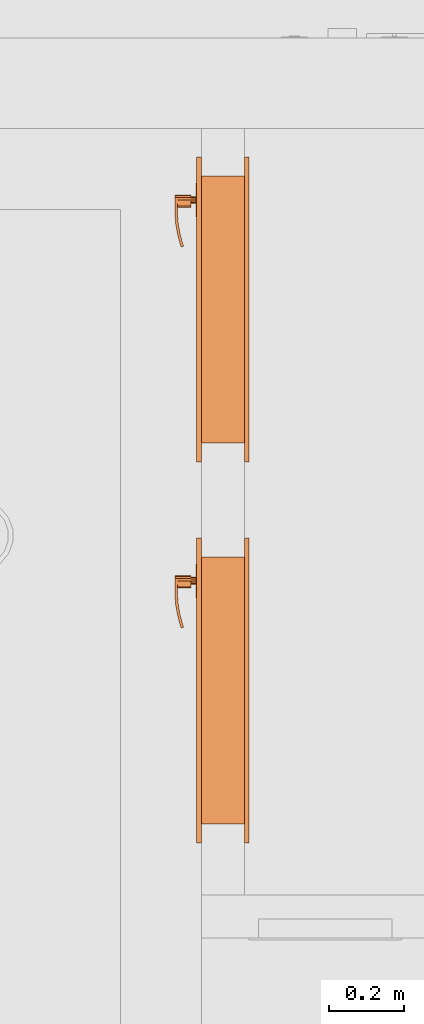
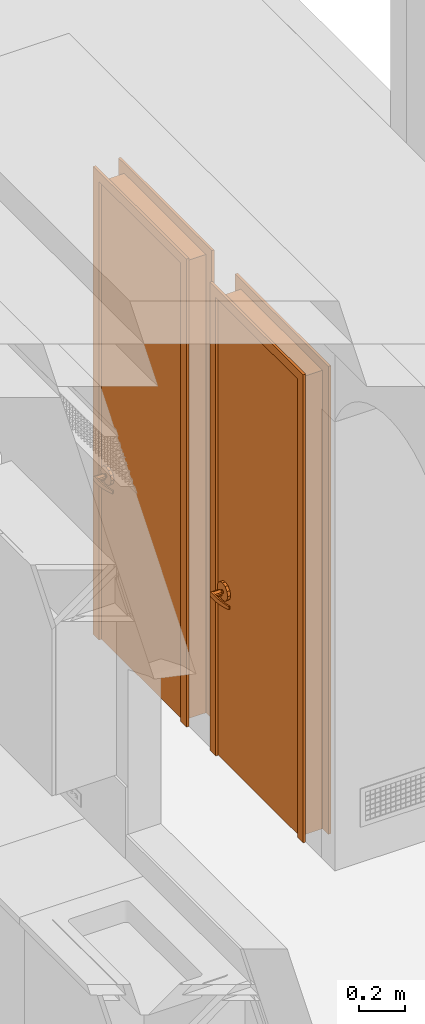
# One storey, part 65 of 103: 2 proxies.
"""IFC2X3 building model written with IfcOpenShell, lengths in inches."""

from ifc_helpers import new_model, entity, si_unit, converted_unit, derived_unit, money_unit, direction, frame, origin_with_axes, place, context, subcontext, project, spatial, open_shell, faceted_brep, surface_model, source, transform, mapped, type_object, element, save


model = new_model("IFC2X3")

# Units and contexts
model_context = context("Model", 3, precision=0.00039370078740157, world=origin_with_axes(), true_north=direction((0.0, 1.0)))
plan_context = context("Plan", 3, precision=0.00039370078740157, world=origin_with_axes(), true_north=direction((0.0, 1.0)))
body_context = subcontext(model_context, "Body", "Model", "MODEL_VIEW")
ifc_project = project(units=[converted_unit("LENGTHUNIT", "INCH", entity("IfcPositiveLengthMeasure", 0.0254), si_unit("LENGTHUNIT", "METRE"), dimensions=[1, 0, 0, 0, 0, 0, 0]), converted_unit("AREAUNIT", "SQUARE_FOOT", entity("IfcPositiveLengthMeasure", 0.09290304), si_unit("AREAUNIT", "SQUARE_METRE"), dimensions=[2, 0, 0, 0, 0, 0, 0]), si_unit("PLANEANGLEUNIT", "RADIAN"), si_unit("SOLIDANGLEUNIT", "STERADIAN"), money_unit("USD"), converted_unit("TIMEUNIT", "Year", entity("IfcTimeMeasure", 31557600.0), si_unit("TIMEUNIT", "SECOND"), dimensions=[0, 0, 1, 0, 0, 0, 0]), si_unit("MASSUNIT", "GRAM", prefix="KILO"), si_unit("THERMODYNAMICTEMPERATUREUNIT", "DEGREE_CELSIUS"), si_unit("LUMINOUSINTENSITYUNIT", "LUMEN"), si_unit("ENERGYUNIT", "JOULE", prefix="MEGA"), derived_unit("SPECIFICHEATCAPACITYUNIT", [(si_unit("ENERGYUNIT", "JOULE"), 1), (si_unit("MASSUNIT", "GRAM", prefix="KILO"), -1), (si_unit("THERMODYNAMICTEMPERATUREUNIT", "KELVIN"), -1)])], contexts=[model_context, plan_context])

# Site, building, storey
site_placement = place(None, origin_with_axes())
site = spatial("IfcSite", under=ifc_project, at=site_placement, Name="Site", CompositionType="ELEMENT")
building_placement = place(site_placement, origin_with_axes())
building = spatial("IfcBuilding", under=site, at=building_placement, Name="Building", CompositionType="ELEMENT")
storey_placement = place(building_placement, frame((0.0, 0.0, 127.9999999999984), z_axis=(0.0, 0.0, 1.0), x_axis=(1.0, 0.0, 0.0)))
storey = spatial("IfcBuildingStorey", under=building, at=storey_placement, Name="Second Floor", CompositionType="ELEMENT", Elevation=128.0)

# Proxies
building_element_proxy_type = type_object("IfcBuildingElementProxyType", Name="D1", PredefinedType="NOTDEFINED")
shared_shape = source(origin_with_axes(), body_context, "Body", "SurfaceModel", [
    faceted_brep([(15.9999999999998, -4.999999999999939, 0.0), (13.99999999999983, -4.999999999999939, 0.0), (13.99999999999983, -4.499999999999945, 0.0), (15.9999999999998, -4.499999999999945, 0.0), (15.9999999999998, -4.999999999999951, 97.99999999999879), (13.99999999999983, -4.999999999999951, 95.9999999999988), (13.99999999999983, -4.499999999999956, 95.9999999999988), (15.9999999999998, -4.499999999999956, 97.99999999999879)], [[[0, 1, 2, 3]], [[0, 4, 5, 1]], [[1, 5, 6, 2]], [[3, 2, 6, 7]], [[4, 0, 3, 7]], [[5, 4, 7, 6]]]),
    faceted_brep([(-15.9999999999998, -4.999999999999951, 97.99999999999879), (-13.99999999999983, -4.999999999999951, 95.9999999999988), (-13.99999999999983, -4.499999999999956, 95.9999999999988), (-15.9999999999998, -4.499999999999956, 97.99999999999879), (-15.9999999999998, -4.999999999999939, 0.0), (-13.99999999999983, -4.999999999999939, 0.0), (-13.99999999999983, -4.499999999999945, 0.0), (-15.9999999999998, -4.499999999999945, 0.0)], [[[0, 1, 2, 3]], [[0, 4, 5, 1]], [[1, 5, 6, 2]], [[3, 2, 6, 7]], [[4, 0, 3, 7]], [[5, 4, 7, 6]]]),
    faceted_brep([(15.9999999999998, -4.999999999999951, 97.99999999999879), (13.99999999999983, -4.999999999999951, 95.9999999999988), (13.99999999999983, -4.499999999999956, 95.9999999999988), (15.9999999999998, -4.499999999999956, 97.99999999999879), (-15.9999999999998, -4.999999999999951, 97.99999999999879), (-13.99999999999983, -4.999999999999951, 95.9999999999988), (-13.99999999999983, -4.499999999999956, 95.9999999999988), (-15.9999999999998, -4.499999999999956, 97.99999999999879)], [[[0, 1, 2, 3]], [[0, 4, 5, 1]], [[1, 5, 6, 2]], [[3, 2, 6, 7]], [[4, 0, 3, 7]], [[5, 4, 7, 6]]]),
    faceted_brep([(15.9999999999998, 0.4999999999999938, 0.0), (15.9999999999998, 0.0, 0.0), (13.99999999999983, 0.0, 0.0), (13.99999999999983, 0.4999999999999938, 0.0), (15.9999999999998, 0.4999999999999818, 97.99999999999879), (15.9999999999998, 0.0, 97.99999999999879), (13.99999999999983, 0.0, 95.9999999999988), (13.99999999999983, 0.4999999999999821, 95.9999999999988)], [[[0, 1, 2, 3]], [[4, 5, 1, 0]], [[1, 5, 6, 2]], [[3, 2, 6, 7]], [[0, 3, 7, 4]], [[7, 6, 5, 4]]]),
    faceted_brep([(-15.9999999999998, 0.4999999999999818, 97.99999999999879), (-15.9999999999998, 0.0, 97.99999999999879), (-13.99999999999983, 0.0, 95.9999999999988), (-13.99999999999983, 0.4999999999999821, 95.9999999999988), (-15.9999999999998, 0.4999999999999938, 0.0), (-15.9999999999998, 0.0, 0.0), (-13.99999999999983, 0.0, 0.0), (-13.99999999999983, 0.4999999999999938, 0.0)], [[[0, 1, 2, 3]], [[4, 5, 1, 0]], [[1, 5, 6, 2]], [[3, 2, 6, 7]], [[0, 3, 7, 4]], [[7, 6, 5, 4]]]),
    faceted_brep([(15.9999999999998, 0.4999999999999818, 97.99999999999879), (15.9999999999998, 0.0, 97.99999999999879), (13.99999999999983, 0.0, 95.9999999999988), (13.99999999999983, 0.4999999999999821, 95.9999999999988), (-15.9999999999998, 0.4999999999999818, 97.99999999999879), (-15.9999999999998, 0.0, 97.99999999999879), (-13.99999999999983, 0.0, 95.9999999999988), (-13.99999999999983, 0.4999999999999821, 95.9999999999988)], [[[0, 1, 2, 3]], [[4, 5, 1, 0]], [[1, 5, 6, 2]], [[3, 2, 6, 7]], [[0, 3, 7, 4]], [[7, 6, 5, 4]]]),
    faceted_brep([(13.99999999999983, 0.0, 0.0), (13.99999999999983, -4.499999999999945, 0.0), (13.49999999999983, -4.499999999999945, 0.0), (13.49999999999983, 0.0, 0.0), (13.99999999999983, 0.0, 95.4999999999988), (13.99999999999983, -4.499999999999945, 95.4999999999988), (13.49999999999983, -4.499999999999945, 95.4999999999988), (13.49999999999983, 0.0, 95.4999999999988)], [[[0, 1, 2, 3]], [[4, 5, 1, 0]], [[1, 5, 6, 2]], [[3, 2, 6, 7]], [[0, 3, 7, 4]], [[7, 6, 5, 4]]]),
    faceted_brep([(-13.99999999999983, 0.0, 0.0), (-13.99999999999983, -4.499999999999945, 0.0), (-13.99999999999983, -4.499999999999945, 95.4999999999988), (-13.99999999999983, 0.0, 95.4999999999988), (-13.49999999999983, 0.0, 0.0), (-13.49999999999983, -4.499999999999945, 0.0), (-13.49999999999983, -4.499999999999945, 95.4999999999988), (-13.49999999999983, 0.0, 95.4999999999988)], [[[0, 1, 2, 3]], [[4, 5, 1, 0]], [[1, 5, 6, 2]], [[3, 2, 6, 7]], [[0, 3, 7, 4]], [[7, 6, 5, 4]]]),
    faceted_brep([(13.99999999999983, 0.0, 95.9999999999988), (13.99999999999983, -4.499999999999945, 95.9999999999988), (13.99999999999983, -4.499999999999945, 95.4999999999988), (13.99999999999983, 0.0, 95.4999999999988), (-13.99999999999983, 0.0, 95.9999999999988), (-13.99999999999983, -4.499999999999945, 95.9999999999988), (-13.99999999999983, -4.499999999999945, 95.4999999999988), (-13.49999999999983, -4.499999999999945, 95.4999999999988), (13.49999999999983, -4.499999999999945, 95.4999999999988), (13.49999999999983, 0.0, 95.4999999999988), (-13.49999999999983, 0.0, 95.4999999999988), (-13.99999999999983, 0.0, 95.4999999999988)], [[[0, 1, 2, 3]], [[4, 5, 1, 0]], [[1, 5, 6, 7, 8, 2]], [[3, 2, 8, 9]], [[0, 3, 9, 10, 11, 4]], [[11, 6, 5, 4]], [[10, 7, 6, 11]], [[9, 8, 7, 10]]]),
    surface_model("IfcShellBasedSurfaceModel", [(9.94865528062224, -2.340551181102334, 36.89566929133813), (9.94865528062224, -2.336614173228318, 36.89566929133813), (9.708661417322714, -2.336614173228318, 35.99999999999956), (9.708661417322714, -2.340551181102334, 35.99999999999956), (10.60433070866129, -2.340551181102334, 37.55134471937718), (10.60433070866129, -2.336614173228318, 37.55134471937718), (9.94865528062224, -1.753937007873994, 36.89566929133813), (9.708661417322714, -1.753937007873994, 35.99999999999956), (9.948655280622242, -2.336614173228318, 35.10433070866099), (9.948655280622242, -2.340551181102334, 35.10433070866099), (10.60433070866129, -2.340551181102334, 34.44865528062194), (11.49999999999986, -2.340551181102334, 34.20866141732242), (12.39566929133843, -2.340551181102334, 34.44865528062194), (13.05134471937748, -2.340551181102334, 35.10433070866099), (13.291338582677, -2.340551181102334, 35.99999999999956), (13.05134471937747, -2.340551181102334, 36.89566929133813), (12.39566929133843, -2.340551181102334, 37.55134471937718), (11.49999999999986, -2.340551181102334, 37.7913385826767), (11.49999999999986, -2.336614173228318, 37.7913385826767), (10.60433070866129, -1.753937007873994, 37.55134471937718), (9.94865528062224, -1.749999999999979, 36.89566929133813), (9.708661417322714, -1.749999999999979, 35.99999999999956), (9.948655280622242, -1.753937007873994, 35.10433070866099), (10.60433070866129, -2.336614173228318, 34.44865528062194), (11.49999999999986, -2.336614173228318, 34.20866141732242), (12.39566929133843, -2.336614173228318, 34.44865528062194), (13.05134471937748, -2.336614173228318, 35.10433070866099), (13.291338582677, -2.336614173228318, 35.99999999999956), (13.05134471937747, -2.336614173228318, 36.89566929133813), (12.39566929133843, -2.336614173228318, 37.55134471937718), (11.49999999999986, -1.753937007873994, 37.7913385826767), (10.60433070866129, -1.749999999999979, 37.55134471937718), (9.948655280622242, -1.749999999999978, 35.10433070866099), (10.60433070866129, -1.753937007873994, 34.44865528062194), (11.49999999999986, -1.753937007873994, 34.20866141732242), (12.39566929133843, -1.753937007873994, 34.44865528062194), (13.05134471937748, -1.753937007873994, 35.10433070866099), (13.291338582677, -1.753937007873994, 35.99999999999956), (13.05134471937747, -1.753937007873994, 36.89566929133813), (12.39566929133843, -1.753937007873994, 37.55134471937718), (11.49999999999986, -1.749999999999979, 37.7913385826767), (10.60433070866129, -1.749999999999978, 34.44865528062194), (11.49999999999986, -1.749999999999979, 34.20866141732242), (12.39566929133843, -1.749999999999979, 34.44865528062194), (13.05134471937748, -1.749999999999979, 35.10433070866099), (13.291338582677, -1.749999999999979, 35.99999999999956), (13.05134471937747, -1.749999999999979, 36.89566929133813), (12.39566929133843, -1.749999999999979, 37.55134471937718)], [open_shell([[[0, 1, 2, 3]], [[4, 5, 1, 0]], [[1, 6, 7, 2]], [[3, 2, 8, 9]], [[3, 9, 10, 11, 12, 13, 14, 15, 16, 17, 4, 0]], [[17, 18, 5, 4]], [[5, 19, 6, 1]], [[6, 20, 21, 7]], [[2, 7, 22, 8]], [[9, 8, 23, 10]], [[10, 23, 24, 11]], [[11, 24, 25, 12]], [[12, 25, 26, 13]], [[13, 26, 27, 14]], [[14, 27, 28, 15]], [[15, 28, 29, 16]], [[16, 29, 18, 17]], [[18, 30, 19, 5]], [[19, 31, 20, 6]], [[7, 21, 32, 22]], [[8, 22, 33, 23]], [[23, 33, 34, 24]], [[24, 34, 35, 25]], [[25, 35, 36, 26]], [[26, 36, 37, 27]], [[27, 37, 38, 28]], [[28, 38, 39, 29]], [[29, 39, 30, 18]], [[30, 40, 31, 19]], [[22, 32, 41, 33]], [[33, 41, 42, 34]], [[34, 42, 43, 35]], [[35, 43, 44, 36]], [[36, 44, 45, 37]], [[37, 45, 46, 38]], [[38, 46, 47, 39]], [[39, 47, 40, 30]]])]),
    faceted_brep([(11.69685039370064, -2.340551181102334, 35.65904511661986), (11.49999999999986, -2.340551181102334, 35.60629921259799), (11.30314960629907, -2.340551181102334, 35.65904511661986), (11.15904511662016, -2.340551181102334, 35.80314960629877), (11.10629921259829, -2.340551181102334, 35.99999999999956), (11.15904511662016, -2.340551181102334, 36.19685039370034), (11.30314960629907, -2.340551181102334, 36.34095488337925), (11.49999999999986, -2.340551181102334, 36.39370078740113), (11.69685039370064, -2.340551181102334, 36.34095488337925), (11.84095488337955, -2.340551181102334, 36.19685039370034), (11.89370078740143, -2.340551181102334, 35.99999999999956), (11.84095488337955, -2.340551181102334, 35.80314960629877), (11.69685039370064, -2.852362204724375, 35.65904511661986), (11.49999999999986, -2.852362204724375, 35.60629921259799), (11.30314960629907, -2.852362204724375, 35.65904511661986), (11.15904511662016, -2.852362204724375, 35.80314960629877), (11.10629921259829, -2.852362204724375, 35.99999999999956), (11.15904511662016, -2.852362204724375, 36.19685039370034), (11.30314960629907, -2.852362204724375, 36.34095488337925), (11.49999999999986, -2.852362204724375, 36.39370078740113), (11.69685039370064, -2.852362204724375, 36.34095488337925), (11.84095488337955, -2.852362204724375, 36.19685039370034), (11.89370078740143, -2.852362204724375, 35.99999999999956), (11.84095488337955, -2.852362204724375, 35.80314960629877)], [[[0, 1, 2, 3, 4, 5, 6, 7, 8, 9, 10, 11]], [[0, 12, 13, 1]], [[1, 13, 14, 2]], [[2, 14, 15, 3]], [[3, 15, 16, 4]], [[4, 16, 17, 5]], [[5, 17, 18, 6]], [[6, 18, 19, 7]], [[7, 19, 20, 8]], [[8, 20, 21, 9]], [[9, 21, 22, 10]], [[10, 22, 23, 11]], [[11, 23, 12, 0]], [[12, 23, 22, 21, 20, 19, 18, 17, 16, 15, 14, 13]]]),
    faceted_brep([(11.49999999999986, -2.852362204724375, 36.55118110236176), (11.49999999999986, -4.269685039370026, 36.55118110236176), (11.77559055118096, -4.269685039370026, 36.47733683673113), (11.77559055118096, -2.852362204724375, 36.47733683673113), (11.10629921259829, -2.852362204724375, 36.47244094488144), (11.10629921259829, -4.269685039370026, 36.47244094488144), (10.87352117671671, -4.269685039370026, 36.35358914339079), (10.73705189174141, -4.269685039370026, 36.13068221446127), (10.73705189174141, -4.269685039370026, 35.86931778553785), (10.87352117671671, -4.269685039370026, 35.64641085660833), (11.10629921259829, -4.269685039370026, 35.52755905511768), (11.49999999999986, -4.269685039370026, 35.44881889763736), (11.77559055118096, -4.269685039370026, 35.52266316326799), (11.97733683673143, -4.269685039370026, 35.72440944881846), (12.05118110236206, -4.269685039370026, 35.99999999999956), (11.97733683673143, -4.269685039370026, 36.27559055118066), (11.97733683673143, -2.852362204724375, 36.27559055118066), (12.05118110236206, -2.852362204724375, 35.99999999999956), (11.97733683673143, -2.852362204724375, 35.72440944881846), (11.77559055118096, -2.852362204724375, 35.52266316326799), (11.49999999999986, -2.852362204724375, 35.44881889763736), (11.10629921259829, -2.852362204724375, 35.52755905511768), (10.87352117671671, -2.852362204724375, 35.64641085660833), (10.73705189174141, -2.852362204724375, 35.86931778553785), (10.73705189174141, -2.852362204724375, 36.13068221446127), (10.87352117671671, -2.852362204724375, 36.35358914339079)], [[[0, 1, 2, 3]], [[4, 5, 1, 0]], [[1, 5, 6, 7, 8, 9, 10, 11, 12, 13, 14, 15, 2]], [[3, 2, 15, 16]], [[0, 3, 16, 17, 18, 19, 20, 21, 22, 23, 24, 25, 4]], [[25, 6, 5, 4]], [[24, 7, 6, 25]], [[23, 8, 7, 24]], [[22, 9, 8, 23]], [[21, 10, 9, 22]], [[20, 11, 10, 21]], [[19, 12, 11, 20]], [[18, 13, 12, 19]], [[17, 14, 13, 18]], [[16, 15, 14, 17]]]),
    surface_model("IfcShellBasedSurfaceModel", [(11.49999999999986, -4.269685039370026, 36.55118110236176), (11.49999999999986, -4.545275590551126, 36.55118110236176), (11.77559055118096, -4.545275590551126, 36.47733683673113), (11.77559055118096, -4.269685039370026, 36.47733683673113), (10.51574803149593, -4.269685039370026, 36.55118110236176), (10.51574803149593, -4.545275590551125, 36.55118110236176), (10.51574803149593, -4.545275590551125, 35.44881889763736), (11.49999999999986, -4.545275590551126, 35.44881889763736), (11.77559055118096, -4.545275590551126, 35.52266316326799), (11.97733683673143, -4.545275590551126, 35.72440944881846), (12.05118110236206, -4.545275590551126, 35.99999999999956), (11.97733683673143, -4.545275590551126, 36.27559055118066), (11.97733683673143, -4.269685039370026, 36.27559055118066), (12.05118110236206, -4.269685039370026, 35.99999999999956), (11.97733683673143, -4.269685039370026, 35.72440944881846), (11.77559055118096, -4.269685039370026, 35.52266316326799), (11.49999999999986, -4.269685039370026, 35.44881889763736), (10.51574803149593, -4.269685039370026, 35.44881889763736)], [open_shell([[[0, 1, 2, 3]], [[4, 5, 1, 0]], [[1, 5, 6, 7, 8, 9, 10, 11, 2]], [[3, 2, 11, 12]], [[0, 3, 12, 13, 14, 15, 16, 17, 4]], [[16, 7, 6, 17]], [[15, 8, 7, 16]], [[14, 9, 8, 15]], [[13, 10, 9, 14]], [[12, 11, 10, 13]]])]),
    surface_model("IfcShellBasedSurfaceModel", [(10.51574803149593, -4.269685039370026, 35.44881889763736), (9.988035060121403, -4.545275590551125, 35.47974008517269), (10.00006760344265, -4.269685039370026, 35.47974008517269), (10.51574803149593, -4.545275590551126, 35.44881889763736), (8.93662533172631, -4.453289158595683, 35.54158246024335), (10.00006760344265, -4.269685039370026, 36.52025991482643), (10.51574803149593, -4.269685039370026, 36.55118110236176), (10.51574803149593, -4.545275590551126, 36.55118110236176), (9.988035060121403, -4.545275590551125, 36.52025991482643), (8.93662533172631, -4.453289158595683, 36.45841753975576), (8.972631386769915, -4.179796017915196, 35.54158246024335), (8.972631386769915, -4.179796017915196, 36.45841753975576), (7.897233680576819, -4.270016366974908, 36.3965751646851), (7.897233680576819, -4.270016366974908, 35.60342483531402), (7.956939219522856, -4.000702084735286, 35.60342483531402), (7.956939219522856, -4.000702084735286, 36.3965751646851), (6.877770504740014, -3.996852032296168, 36.33473278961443), (6.877770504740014, -3.996852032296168, 35.66526721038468), (6.960721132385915, -3.733766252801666, 35.66526721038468), (6.960721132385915, -3.733766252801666, 36.33473278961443), (6.560582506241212, -3.881405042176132, 36.31496062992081), (6.560582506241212, -3.881405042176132, 35.6850393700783), (6.650765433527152, -3.620951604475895, 35.6850393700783), (6.650765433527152, -3.620951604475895, 36.31496062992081)], [open_shell([[[0, 1, 2]], [[0, 3, 1]], [[2, 1, 4]], [[0, 2, 5, 6]], [[3, 7, 8, 1]], [[1, 8, 9, 4]], [[2, 4, 10]], [[2, 10, 11, 5]], [[5, 7, 6]], [[5, 8, 7]], [[11, 9, 8]], [[4, 9, 12, 13]], [[10, 4, 13]], [[10, 14, 15, 11]], [[11, 8, 5]], [[15, 9, 11]], [[15, 12, 9]], [[13, 12, 16, 17]], [[10, 13, 14]], [[14, 18, 19, 15]], [[19, 12, 15]], [[19, 16, 12]], [[17, 16, 20, 21]], [[14, 13, 17]], [[14, 17, 18]], [[18, 22, 23, 19]], [[23, 16, 19]], [[23, 20, 16]], [[22, 21, 20, 23]], [[18, 17, 21]], [[18, 21, 22]]])]),
    surface_model("IfcShellBasedSurfaceModel", [(9.948655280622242, 0.5905511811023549, 36.89566929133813), (9.708661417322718, 0.5905511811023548, 35.99999999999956), (9.708661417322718, 0.5866141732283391, 35.99999999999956), (9.948655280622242, 0.5866141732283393, 36.89566929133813), (10.60433070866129, 0.5905511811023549, 37.55134471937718), (11.49999999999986, 0.590551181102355, 37.7913385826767), (12.39566929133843, 0.590551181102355, 37.55134471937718), (13.05134471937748, 0.590551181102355, 36.89566929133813), (13.291338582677, 0.590551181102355, 35.99999999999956), (13.05134471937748, 0.5905511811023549, 35.10433070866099), (12.39566929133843, 0.5905511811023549, 34.44865528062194), (11.49999999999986, 0.5905511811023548, 34.20866141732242), (10.60433070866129, 0.5905511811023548, 34.44865528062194), (9.948655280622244, 0.5905511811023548, 35.10433070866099), (9.948655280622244, 0.5866141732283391, 35.10433070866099), (9.708661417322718, 0.00393700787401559, 35.99999999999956), (9.948655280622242, 0.00393700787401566, 36.89566929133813), (10.60433070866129, 0.5866141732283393, 37.55134471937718), (11.49999999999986, 0.5866141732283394, 37.7913385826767), (12.39566929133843, 0.5866141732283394, 37.55134471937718), (13.05134471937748, 0.5866141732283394, 36.89566929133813), (13.291338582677, 0.5866141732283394, 35.99999999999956), (13.05134471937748, 0.5866141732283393, 35.10433070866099), (12.39566929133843, 0.5866141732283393, 34.44865528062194), (11.49999999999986, 0.5866141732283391, 34.20866141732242), (10.60433070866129, 0.5866141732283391, 34.44865528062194), (9.948655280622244, 0.00393700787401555, 35.10433070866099), (9.708661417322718, 0.0, 35.99999999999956), (9.948655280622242, 0.0, 36.89566929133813), (10.60433070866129, 0.00393700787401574, 37.55134471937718), (11.49999999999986, 0.00393700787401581, 37.7913385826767), (12.39566929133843, 0.00393700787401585, 37.55134471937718), (13.05134471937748, 0.00393700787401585, 36.89566929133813), (13.291338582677, 0.00393700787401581, 35.99999999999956), (13.05134471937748, 0.00393700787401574, 35.10433070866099), (12.39566929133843, 0.00393700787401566, 34.44865528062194), (11.49999999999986, 0.00393700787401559, 34.20866141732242), (10.60433070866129, 0.00393700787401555, 34.44865528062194), (9.948655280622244, 0.0, 35.10433070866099), (10.60433070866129, 0.0, 37.55134471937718), (11.49999999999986, 0.0, 37.7913385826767), (12.39566929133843, 0.0, 37.55134471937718), (13.05134471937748, 0.0, 36.89566929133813), (13.291338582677, 0.0, 35.99999999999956), (13.05134471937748, 0.0, 35.10433070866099), (12.39566929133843, 0.0, 34.44865528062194), (11.49999999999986, 0.0, 34.20866141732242), (10.60433070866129, 0.0, 34.44865528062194)], [open_shell([[[0, 1, 2, 3]], [[1, 0, 4, 5, 6, 7, 8, 9, 10, 11, 12, 13]], [[1, 13, 14, 2]], [[3, 2, 15, 16]], [[4, 0, 3, 17]], [[5, 4, 17, 18]], [[6, 5, 18, 19]], [[7, 6, 19, 20]], [[8, 7, 20, 21]], [[9, 8, 21, 22]], [[10, 9, 22, 23]], [[11, 10, 23, 24]], [[12, 11, 24, 25]], [[13, 12, 25, 14]], [[2, 14, 26, 15]], [[16, 15, 27, 28]], [[17, 3, 16, 29]], [[18, 17, 29, 30]], [[19, 18, 30, 31]], [[20, 19, 31, 32]], [[21, 20, 32, 33]], [[22, 21, 33, 34]], [[23, 22, 34, 35]], [[24, 23, 35, 36]], [[25, 24, 36, 37]], [[14, 25, 37, 26]], [[15, 26, 38, 27]], [[29, 16, 28, 39]], [[30, 29, 39, 40]], [[31, 30, 40, 41]], [[32, 31, 41, 42]], [[33, 32, 42, 43]], [[34, 33, 43, 44]], [[35, 34, 44, 45]], [[36, 35, 45, 46]], [[37, 36, 46, 47]], [[26, 37, 47, 38]]])]),
    faceted_brep([(11.69685039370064, 0.5905511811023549, 35.65904511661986), (11.84095488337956, 0.5905511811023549, 35.80314960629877), (11.89370078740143, 0.5905511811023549, 35.99999999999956), (11.84095488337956, 0.5905511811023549, 36.19685039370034), (11.69685039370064, 0.5905511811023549, 36.34095488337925), (11.49999999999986, 0.5905511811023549, 36.39370078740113), (11.30314960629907, 0.5905511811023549, 36.34095488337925), (11.15904511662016, 0.5905511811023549, 36.19685039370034), (11.10629921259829, 0.5905511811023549, 35.99999999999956), (11.15904511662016, 0.5905511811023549, 35.80314960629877), (11.30314960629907, 0.5905511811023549, 35.65904511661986), (11.49999999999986, 0.5905511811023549, 35.60629921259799), (11.69685039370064, 1.102362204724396, 35.65904511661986), (11.84095488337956, 1.102362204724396, 35.80314960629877), (11.89370078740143, 1.102362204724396, 35.99999999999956), (11.84095488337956, 1.102362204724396, 36.19685039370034), (11.69685039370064, 1.102362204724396, 36.34095488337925), (11.49999999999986, 1.102362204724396, 36.39370078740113), (11.30314960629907, 1.102362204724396, 36.34095488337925), (11.15904511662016, 1.102362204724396, 36.19685039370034), (11.10629921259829, 1.102362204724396, 35.99999999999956), (11.15904511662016, 1.102362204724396, 35.80314960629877), (11.30314960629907, 1.102362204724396, 35.65904511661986), (11.49999999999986, 1.102362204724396, 35.60629921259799)], [[[0, 1, 2, 3, 4, 5, 6, 7, 8, 9, 10, 11]], [[1, 0, 12, 13]], [[2, 1, 13, 14]], [[3, 2, 14, 15]], [[4, 3, 15, 16]], [[5, 4, 16, 17]], [[6, 5, 17, 18]], [[7, 6, 18, 19]], [[8, 7, 19, 20]], [[9, 8, 20, 21]], [[10, 9, 21, 22]], [[11, 10, 22, 23]], [[0, 11, 23, 12]], [[12, 23, 22, 21, 20, 19, 18, 17, 16, 15, 14, 13]]]),
    faceted_brep([(11.49999999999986, 1.102362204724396, 36.55118110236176), (11.77559055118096, 1.102362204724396, 36.47733683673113), (11.77559055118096, 2.519685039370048, 36.47733683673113), (11.49999999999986, 2.519685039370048, 36.55118110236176), (11.10629921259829, 1.102362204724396, 36.47244094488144), (10.87352117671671, 1.102362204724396, 36.35358914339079), (10.73705189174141, 1.102362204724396, 36.13068221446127), (10.73705189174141, 1.102362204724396, 35.86931778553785), (10.87352117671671, 1.102362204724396, 35.64641085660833), (11.10629921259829, 1.102362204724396, 35.52755905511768), (11.49999999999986, 1.102362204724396, 35.44881889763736), (11.77559055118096, 1.102362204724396, 35.52266316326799), (11.97733683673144, 1.102362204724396, 35.72440944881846), (12.05118110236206, 1.102362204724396, 35.99999999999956), (11.97733683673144, 1.102362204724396, 36.27559055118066), (11.97733683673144, 2.519685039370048, 36.27559055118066), (12.05118110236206, 2.519685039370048, 35.99999999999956), (11.97733683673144, 2.519685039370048, 35.72440944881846), (11.77559055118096, 2.519685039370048, 35.52266316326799), (11.49999999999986, 2.519685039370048, 35.44881889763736), (11.10629921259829, 2.519685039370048, 35.52755905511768), (10.87352117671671, 2.519685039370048, 35.64641085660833), (10.73705189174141, 2.519685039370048, 35.86931778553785), (10.73705189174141, 2.519685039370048, 36.13068221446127), (10.87352117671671, 2.519685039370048, 36.35358914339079), (11.10629921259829, 2.519685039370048, 36.47244094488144)], [[[0, 1, 2, 3]], [[0, 4, 5, 6, 7, 8, 9, 10, 11, 12, 13, 14, 1]], [[1, 14, 15, 2]], [[3, 2, 15, 16, 17, 18, 19, 20, 21, 22, 23, 24, 25]], [[4, 0, 3, 25]], [[5, 4, 25, 24]], [[6, 5, 24, 23]], [[7, 6, 23, 22]], [[8, 7, 22, 21]], [[9, 8, 21, 20]], [[10, 9, 20, 19]], [[11, 10, 19, 18]], [[12, 11, 18, 17]], [[13, 12, 17, 16]], [[14, 13, 16, 15]]]),
    surface_model("IfcShellBasedSurfaceModel", [(11.49999999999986, 2.519685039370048, 36.55118110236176), (11.77559055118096, 2.519685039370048, 36.47733683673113), (11.77559055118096, 2.795275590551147, 36.47733683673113), (11.49999999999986, 2.795275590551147, 36.55118110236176), (10.51574803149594, 2.519685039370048, 36.55118110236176), (10.51574803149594, 2.519685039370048, 35.44881889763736), (11.49999999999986, 2.519685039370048, 35.44881889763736), (11.77559055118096, 2.519685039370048, 35.52266316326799), (11.97733683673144, 2.519685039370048, 35.72440944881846), (12.05118110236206, 2.519685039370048, 35.99999999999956), (11.97733683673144, 2.519685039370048, 36.27559055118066), (11.97733683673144, 2.795275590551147, 36.27559055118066), (12.05118110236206, 2.795275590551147, 35.99999999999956), (11.97733683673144, 2.795275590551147, 35.72440944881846), (11.77559055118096, 2.795275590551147, 35.52266316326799), (11.49999999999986, 2.795275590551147, 35.44881889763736), (10.51574803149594, 2.795275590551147, 35.44881889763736), (10.51574803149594, 2.795275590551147, 36.55118110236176)], [open_shell([[[0, 1, 2, 3]], [[0, 4, 5, 6, 7, 8, 9, 10, 1]], [[1, 10, 11, 2]], [[3, 2, 11, 12, 13, 14, 15, 16, 17]], [[4, 0, 3, 17]], [[6, 5, 16, 15]], [[7, 6, 15, 14]], [[8, 7, 14, 13]], [[9, 8, 13, 12]], [[10, 9, 12, 11]]])]),
    surface_model("IfcShellBasedSurfaceModel", [(10.51574803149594, 2.519685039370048, 35.44881889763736), (10.00006760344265, 2.519685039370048, 35.47974008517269), (9.988035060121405, 2.795275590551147, 35.47974008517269), (10.51574803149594, 2.519685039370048, 36.55118110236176), (10.00006760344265, 2.519685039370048, 36.52025991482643), (8.936625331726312, 2.703289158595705, 35.54158246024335), (10.51574803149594, 2.795275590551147, 35.44881889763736), (10.51574803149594, 2.795275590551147, 36.55118110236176), (8.972631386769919, 2.429796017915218, 36.45841753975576), (8.972631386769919, 2.429796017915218, 35.54158246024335), (8.936625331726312, 2.703289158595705, 36.45841753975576), (9.988035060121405, 2.795275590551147, 36.52025991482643), (7.956939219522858, 2.250702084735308, 36.3965751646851), (7.956939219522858, 2.250702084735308, 35.60342483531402), (7.897233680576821, 2.52001636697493, 35.60342483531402), (7.897233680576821, 2.52001636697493, 36.3965751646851), (6.960721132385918, 1.983766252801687, 36.33473278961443), (6.960721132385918, 1.983766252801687, 35.66526721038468), (6.877770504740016, 2.24685203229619, 35.66526721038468), (6.877770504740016, 2.24685203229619, 36.33473278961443), (6.650765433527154, 1.870951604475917, 36.31496062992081), (6.650765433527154, 1.870951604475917, 35.6850393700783), (6.560582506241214, 2.131405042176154, 35.6850393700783), (6.560582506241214, 2.131405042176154, 36.31496062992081)], [open_shell([[[0, 1, 2]], [[0, 3, 4, 1]], [[1, 5, 2]], [[0, 2, 6]], [[4, 3, 7]], [[1, 4, 8, 9]], [[1, 9, 5]], [[2, 5, 10, 11]], [[6, 2, 11, 7]], [[4, 7, 11]], [[8, 4, 11]], [[9, 8, 12, 13]], [[9, 14, 5]], [[5, 14, 15, 10]], [[8, 11, 10]], [[12, 8, 10]], [[13, 12, 16, 17]], [[9, 13, 14]], [[14, 18, 19, 15]], [[12, 10, 15]], [[16, 12, 15]], [[17, 16, 20, 21]], [[13, 17, 18]], [[13, 18, 14]], [[18, 22, 23, 19]], [[16, 15, 19]], [[20, 16, 19]], [[21, 20, 23, 22]], [[17, 21, 22]], [[17, 22, 18]], [[20, 19, 23]]])]),
    faceted_brep([(13.46062992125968, -1.749999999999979, 0.03937007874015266), (13.46062992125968, -1.749999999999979, 95.46062992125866), (-13.46062992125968, -1.749999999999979, 95.46062992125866), (-13.46062992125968, -1.749999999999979, 0.03937007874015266), (13.46062992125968, 0.0, 0.03937007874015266), (13.46062992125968, 0.0, 95.46062992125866), (-13.46062992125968, 0.0, 95.46062992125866), (-13.46062992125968, 0.0, 0.03937007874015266)], [[[0, 1, 2, 3]], [[4, 5, 1, 0]], [[2, 1, 5, 6]], [[3, 2, 6, 7]], [[7, 4, 0, 3]], [[7, 6, 5, 4]]]),
    faceted_brep([(-13.49999999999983, 0.0, 0.0), (13.49999999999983, 0.0, 0.0), (13.49999999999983, -1.749999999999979, 0.0), (-13.49999999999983, -1.749999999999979, 0.0), (-13.49999999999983, 0.0, 95.4999999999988), (13.49999999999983, 0.0, 95.4999999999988), (-13.46062992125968, 0.0, 0.039370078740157), (13.46062992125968, 0.0, 0.039370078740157), (13.46062992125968, 0.0, 95.46062992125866), (-13.46062992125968, 0.0, 95.46062992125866), (13.49999999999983, -1.749999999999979, 95.4999999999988), (-13.49999999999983, -1.749999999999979, 95.4999999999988), (-13.46062992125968, -1.749999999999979, 0.039370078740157), (-13.46062992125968, -1.749999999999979, 95.46062992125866), (13.46062992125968, -1.749999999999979, 95.46062992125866), (13.46062992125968, -1.749999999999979, 0.039370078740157)], [[[0, 1, 2, 3]], [[0, 4, 5, 1], [6, 7, 8, 9]], [[1, 5, 10, 2]], [[3, 2, 10, 11], [12, 13, 14, 15]], [[4, 0, 3, 11]], [[5, 4, 11, 10]], [[7, 6, 12, 15]], [[8, 7, 15, 14]], [[9, 8, 14, 13]], [[6, 9, 13, 12]]]),
])
for number, where, z_axis, x_axis, name in (
    (1, (209.499999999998, 318.4999999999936, 0.0), (0.0, 0.0, 1.0), (0.0, 1.0, 0.0), "D-07"),
    (2, (209.499999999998, 358.4999999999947, 0.0), (0.0, 0.0, 1.0), (0.0, 1.0, 0.0), "D-07"),
):
    element("IfcBuildingElementProxy", number, at=place(storey_placement, frame(where, z_axis=z_axis, x_axis=x_axis)), inside=storey, type_object=building_element_proxy_type, Name=name, context=body_context, shape_type="MappedRepresentation", body=[
        mapped(shared_shape, transform((13.99999999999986, 0.0, 0.0))),
    ])

save(model, "model.ifc")
